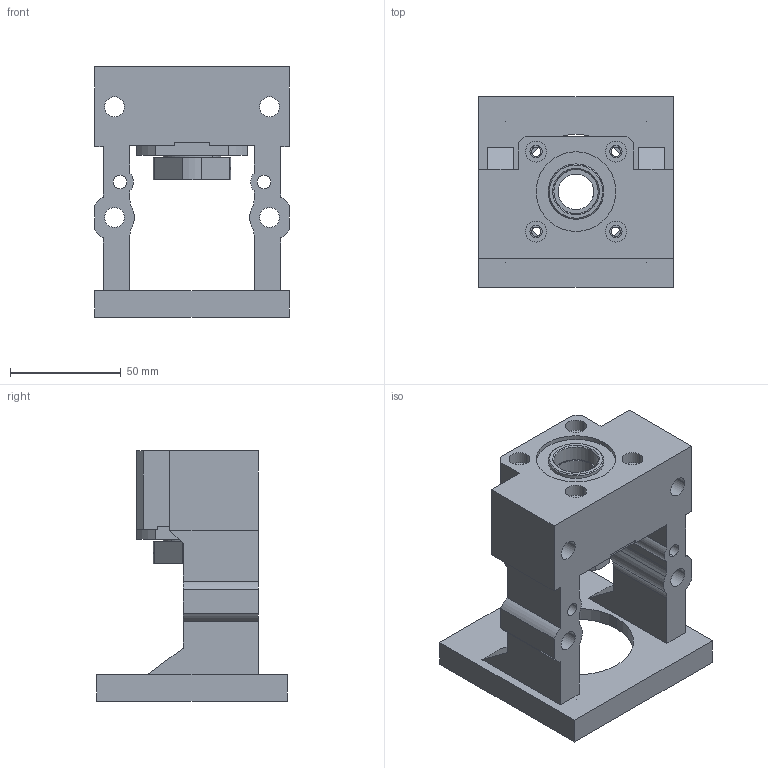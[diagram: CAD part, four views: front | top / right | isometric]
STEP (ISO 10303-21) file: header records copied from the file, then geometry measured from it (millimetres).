
FILE_DESCRIPTION((''),'2;1');
FILE_NAME('M80EP--AK20-C_ASM','2019-12-30T',('ASUS'),(''),'PRO/ENGINEER BY PARAMETRIC TECHNOLOGY CORPORATION, 2010280','PRO/ENGINEER BY PARAMETRIC TECHNOLOGY CORPORATION, 2010280','');
FILE_SCHEMA(('CONFIG_CONTROL_DESIGN'));
Length unit declared in the file: millimetre
Products named in the file (5): MBCA20-EP_1; MBCA20-EP_3; MBCA20-EP_2; _MBCA20-EP; M80EP--AK20-C_ASM
Assembly tree (5 placements, depth 2):
  M80EP--AK20-C_ASM
    MBCA20-EP_1  x2
    MBCA20-EP_3
    MBCA20-EP_2
    _MBCA20-EP
Bounding box: 88 x 86 x 113 mm (x, y, z)
Volume: 249886.3 mm3; surface area: 68857.2 mm2
Topology: 5 solids, 5 shells, 211 faces, 551 edges, 361 vertices
Faces by surface type: cylinder 110, plane 77, cone 24
Entity records: 6499 total; most frequent: CARTESIAN_POINT 1199, DIRECTION 1152, ORIENTED_EDGE 1030, EDGE_CURVE 515, AXIS2_PLACEMENT_3D 440, VERTEX_POINT 345, VECTOR 272, LINE 272
